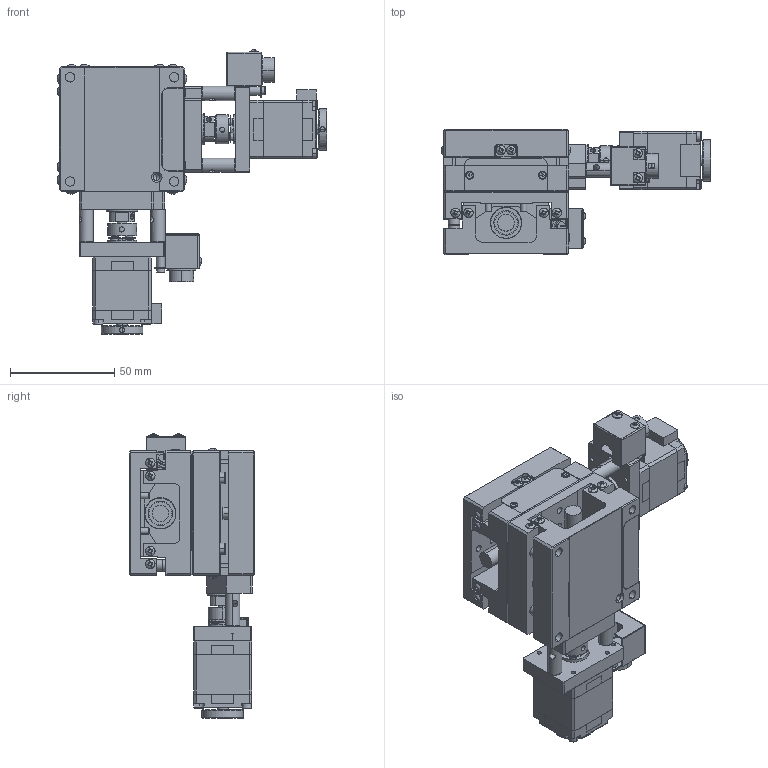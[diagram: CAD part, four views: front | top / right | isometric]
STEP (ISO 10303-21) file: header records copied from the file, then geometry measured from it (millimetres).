
FILE_DESCRIPTION (( 'STEP AP214' ), '1' );
FILE_NAME ('TYS6020B-L1-M28L.STEP', '2025-01-03T09:10:52', ( '' ), ( '' ), 'SwSTEP 2.0', 'SolidWorks 2020', '' );
FILE_SCHEMA (( 'AUTOMOTIVE_DESIGN' ));
Length unit declared in the file: millimetre
Products named in the file (2): TYS6020B-L1-M28L; TXS6020B-L1-M28L
Assembly tree (2 placements, depth 2):
  TYS6020B-L1-M28L
    TXS6020B-L1-M28L  x2
Bounding box: 129.43 x 60 x 136.43 mm (x, y, z)
Volume: 228936.4 mm3; surface area: 120040 mm2
Topology: 164 solids, 164 shells, 3858 faces, 10006 edges, 6338 vertices
Faces by surface type: plane 1886, cylinder 1262, cone 350, torus 160, bspline 136, sphere 64
Entity records: 64450 total; most frequent: CARTESIAN_POINT 16805, DIRECTION 9751, ORIENTED_EDGE 9684, EDGE_CURVE 4842, AXIS2_PLACEMENT_3D 3627, VERTEX_POINT 3169, LINE 2497, VECTOR 2497
